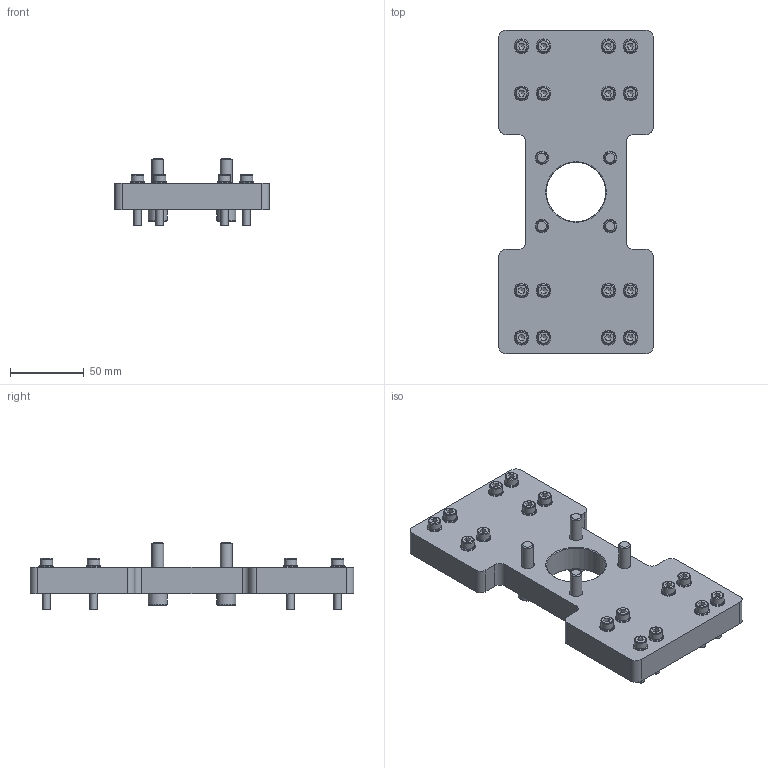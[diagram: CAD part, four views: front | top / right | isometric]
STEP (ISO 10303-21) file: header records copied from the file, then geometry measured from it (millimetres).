
FILE_DESCRIPTION(/* description */ ('Crossbar ETH050 with direct Mounting'),/* implementation_level */ '2;1');
FILE_NAME(/* name */ 'D:\InventorWorkspace2017\CAD\Projekte_EDEM\HLR\Zubehörteile\0242.035-02.stp',/* time_stamp */ '2019-02-13T11:53:38+01:00',/* author */ ('544672'),/* organization */ (''),/* preprocessor_version */ 'ST-DEVELOPER v16.5',/* originating_system */ 'Autodesk Inventor 2017',/* authorisation */ '');
FILE_SCHEMA (('AUTOMOTIVE_DESIGN { 1 0 10303 214 3 1 1 }'));
Length unit declared in the file: millimetre
Products named in the file (5): 0242.035-02; 0241.028; 130-302323; 135-728812; 135-721066
Assembly tree (37 placements, depth 2):
  0242.035-02
    0241.028
    130-302323  x16
    135-728812  x16
    135-721066  x4
Bounding box: 105 x 220 x 46 mm (x, y, z)
Volume: 354004.2 mm3; surface area: 78858 mm2
Topology: 37 solids, 37 shells, 429 faces, 927 edges, 592 vertices
Faces by surface type: plane 226, cylinder 105, cone 58, torus 40
Full cylindrical faces by diameter (mm): 5 x16, 5.3 x16, 5.5 x16, 8 x4, 8.5 x16, 9 x4, 10 x16, 13 x4, 40.1 x1
Entity records: 2824 total; most frequent: DIRECTION 498, CARTESIAN_POINT 456, ORIENTED_EDGE 342, AXIS2_PLACEMENT_3D 213, EDGE_CURVE 171, EDGE_LOOP 168, VERTEX_POINT 135, CIRCLE 87
